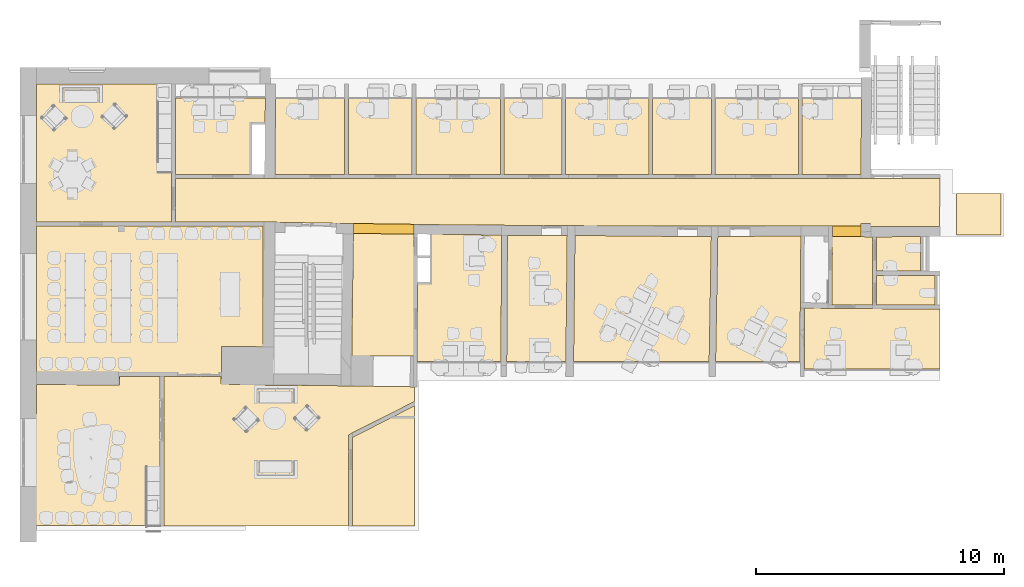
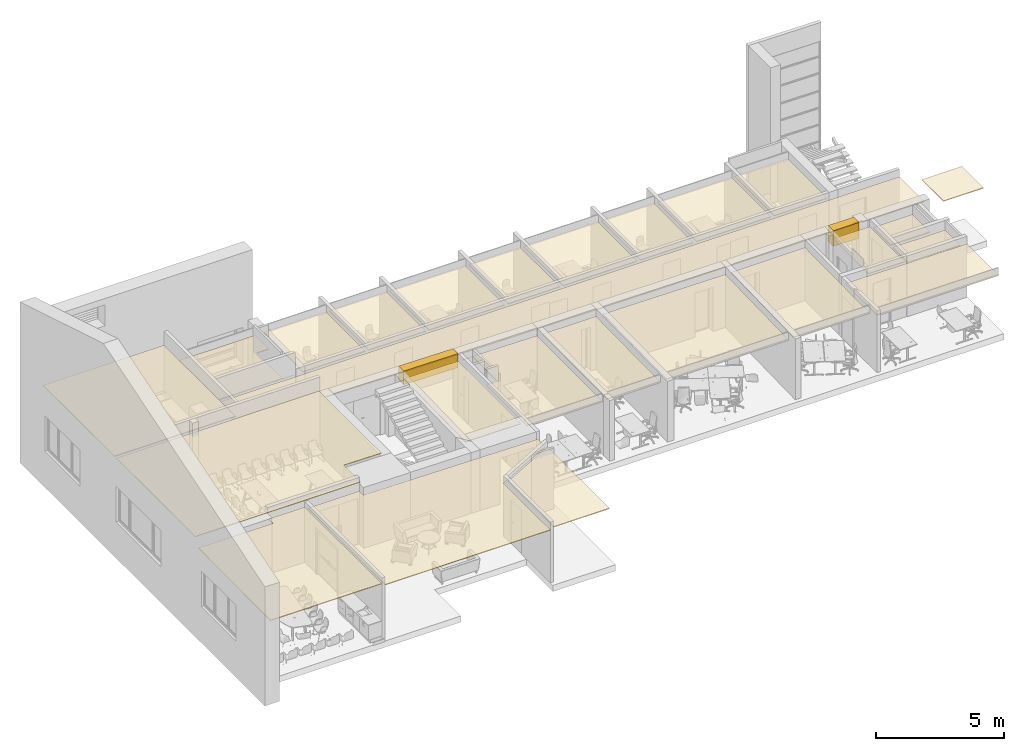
# One storey, part 11 of 19: 27 coverings.
"""IFC2X3 building model written with IfcOpenShell, lengths in millimetres."""

import ifcopenshell
import ifcopenshell.guid

model = None  # the IFC model being written
_history = None  # IfcOwnerHistory: only IFC2X3 demands one
_inside = {}  # id of a spatial element -> (the spatial element, [elements in it])
_under = {}  # id of a project, library or spatial element -> (it, [spatial elements below it])
_declared = {}  # id of a project -> (the project, [libraries it declares])
_typed = {}  # id of a type object -> (the type object, [elements of that type])
_made_of = {}  # id of a material, layer set ... -> (it, [elements and type objects made of it])


def new_model(schema):
    """Start an empty IFC model of exactly this schema.

    Asked for "IFC4X3", IfcOpenShell would pick the latest addendum, in which some entities
    have other attributes; the version numbers below select the first issue.
    IFC2X3 requires an IfcOwnerHistory on every rooted entity: one is made here for all.
    """
    global model, _history
    if schema == "IFC4X3":
        model = ifcopenshell.file(schema_version=(4, 3, 0, 0))
    else:
        model = ifcopenshell.file(schema=schema)
    _inside.clear()
    _under.clear()
    _declared.clear()
    _typed.clear()
    _made_of.clear()
    _history = None
    if model.schema == "IFC2X3":
        org = make("IfcOrganization", Name="unknown")
        user = make(
            "IfcPersonAndOrganization",
            ThePerson=make("IfcPerson", FamilyName="unknown"),
            TheOrganization=org,
        )
        app = make(
            "IfcApplication",
            ApplicationDeveloper=org,
            Version="unknown",
            ApplicationFullName="unknown",
            ApplicationIdentifier="unknown",
        )
        _history = make(
            "IfcOwnerHistory",
            OwningUser=user,
            OwningApplication=app,
            ChangeAction="ADDED",
            CreationDate=0,
        )
    return model


def make(cls, **values):
    """One entity of the class cls with the attributes given. An attribute that is None is left unset."""
    return model.create_entity(
        cls, **{name: value for name, value in values.items() if value is not None}
    )


def entity(cls, *values):
    """Any entity or typed value of the class cls, its attributes in the order of the schema. None: left unset."""
    e = model.create_entity(cls)
    for i, value in enumerate(values):
        if value is not None:
            e[i] = value
    return e


def rooted(cls, **values):
    """An entity with a GlobalId (a new one), such as an element, a storey or a relation."""
    return make(cls, GlobalId=ifcopenshell.guid.new(), OwnerHistory=_history, **values)


def si_unit(unit_type, name, prefix=None):
    """IfcSIUnit, for example si_unit("LENGTHUNIT", "METRE", prefix="MILLI")."""
    return make("IfcSIUnit", UnitType=unit_type, Prefix=prefix, Name=name)


def converted_unit(unit_type, name, factor, base, dimensions=None, offset=None):
    """IfcConversionBasedUnit, such as the inch: factor (a typed value) times the base unit."""
    return make(
        "IfcConversionBasedUnit"
        if offset is None
        else "IfcConversionBasedUnitWithOffset",
        ConversionOffset=offset,
        Dimensions=None
        if dimensions is None
        else entity("IfcDimensionalExponents", *dimensions),
        UnitType=unit_type,
        Name=name,
        ConversionFactor=make(
            "IfcMeasureWithUnit", ValueComponent=factor, UnitComponent=base
        ),
    )


def derived_unit(unit_type, elements):
    """IfcDerivedUnit: a product of units, each with its exponent."""
    return make(
        "IfcDerivedUnit",
        Elements=[
            make("IfcDerivedUnitElement", Unit=unit, Exponent=power)
            for unit, power in elements
        ],
        UnitType=unit_type,
    )


def assignment(units):
    """IfcUnitAssignment: the units of a project."""
    return None if units is None else make("IfcUnitAssignment", Units=units)


def point(xyz):
    """IfcCartesianPoint."""
    return None if xyz is None else make("IfcCartesianPoint", Coordinates=xyz)


def direction(xyz):
    """IfcDirection."""
    return None if xyz is None else make("IfcDirection", DirectionRatios=xyz)


def frame(location, z_axis=None, x_axis=None):
    """IfcAxis2Placement3D, a coordinate frame: its origin and axes. An axis left out is left unset."""
    return make(
        "IfcAxis2Placement3D",
        Location=point(location),
        Axis=direction(z_axis),
        RefDirection=direction(x_axis),
    )


def frame_2d(location, x_axis=None):
    """IfcAxis2Placement2D, a coordinate frame in the plane: its origin and x axis."""
    return make(
        "IfcAxis2Placement2D", Location=point(location), RefDirection=direction(x_axis)
    )


def origin():
    """The frame at (0, 0, 0) with its axes left unset."""
    return frame((0.0, 0.0, 0.0))


def origin_2d_with_axis():
    """The frame at (0, 0) in the plane with the x axis (1, 0) written out."""
    return frame_2d((0.0, 0.0), x_axis=(1.0, 0.0))


def place(relative_to, where):
    """IfcLocalPlacement: puts the frame where relative to a parent placement (None: the world)."""
    return make(
        "IfcLocalPlacement", PlacementRelTo=relative_to, RelativePlacement=where
    )


def context(
    kind, dimensions, precision=None, world=None, true_north=None, identifier=None
):
    """IfcGeometricRepresentationContext, for example the 3D "Model" context."""
    return make(
        "IfcGeometricRepresentationContext",
        ContextIdentifier=identifier,
        ContextType=kind,
        CoordinateSpaceDimension=dimensions,
        Precision=precision,
        WorldCoordinateSystem=world,
        TrueNorth=true_north,
    )


def subcontext(parent, identifier, kind, view, scale=None):
    """IfcGeometricRepresentationSubContext, for example "Body" below "Model"."""
    return make(
        "IfcGeometricRepresentationSubContext",
        ContextIdentifier=identifier,
        ContextType=kind,
        ParentContext=parent,
        TargetScale=scale,
        TargetView=view,
    )


def project(units=None, contexts=None):
    """IfcProject with its units and contexts."""
    return rooted(
        "IfcProject",
        Name="project",
        RepresentationContexts=contexts,
        UnitsInContext=assignment(units),
    )


def spatial(cls, under=None, at=None, **own):
    """A site, building, storey or space (cls), placed at a placement, below another one or the project."""
    s = rooted(cls, ObjectPlacement=at, **own)
    if under is not None:
        _under.setdefault(under.id(), (under, []))[1].append(s)
    return s


def polyline(points):
    """IfcPolyline through the points."""
    return make("IfcPolyline", Points=[point(p) for p in points])


def profile(cls, at=None, kind="AREA", **sizes):
    """A parametric profile (cls). Its sizes go by their IFC names, for example OverallWidth=200.0."""
    return make(cls, ProfileType=kind, Position=at, **sizes)


def rectangle(**sizes):
    """IfcRectangleProfileDef."""
    return profile("IfcRectangleProfileDef", **sizes)


def outline(outer, holes=None, kind="AREA"):
    """IfcArbitraryClosedProfileDef: a profile drawn as a closed curve; with holes, ...WithVoids."""
    if holes is None:
        return make("IfcArbitraryClosedProfileDef", ProfileType=kind, OuterCurve=outer)
    return make(
        "IfcArbitraryProfileDefWithVoids",
        ProfileType=kind,
        OuterCurve=outer,
        InnerCurves=holes,
    )


def extrude(swept, where, along, depth):
    """IfcExtrudedAreaSolid: the profile swept, set in the frame where, extruded along a direction by depth."""
    return make(
        "IfcExtrudedAreaSolid",
        SweptArea=swept,
        Position=where,
        ExtrudedDirection=direction(along),
        Depth=depth,
    )


def shape(context_of_items, identifier, shape_type, items):
    """IfcShapeRepresentation: the items that make up one representation, for example the "Body"."""
    return make(
        "IfcShapeRepresentation",
        ContextOfItems=context_of_items,
        RepresentationIdentifier=identifier,
        RepresentationType=shape_type,
        Items=items,
    )


def material(Name=None, Category=None):
    """IfcMaterial."""
    return make("IfcMaterial", Name=Name, Category=Category)


def layer(
    of_material, thickness, ventilated=None, Name=None, Category=None, Priority=None
):
    """IfcMaterialLayer: one layer of a wall or slab, of a material (None: an air gap)."""
    return make(
        "IfcMaterialLayer",
        Material=of_material,
        LayerThickness=thickness,
        IsVentilated=ventilated,
        Name=Name,
        Category=Category,
        Priority=Priority,
    )


def layer_set(layers, Name=None):
    """IfcMaterialLayerSet."""
    return make("IfcMaterialLayerSet", MaterialLayers=layers, LayerSetName=Name)


def layer_usage(for_layer_set, set_direction, sense, offset, extent=None):
    """IfcMaterialLayerSetUsage: how a layer set lies in its element."""
    return make(
        "IfcMaterialLayerSetUsage",
        ForLayerSet=for_layer_set,
        LayerSetDirection=set_direction,
        DirectionSense=sense,
        OffsetFromReferenceLine=offset,
        ReferenceExtent=extent,
    )


def made_of(thing, what):
    """Note that an element or type object is made of a material, layer set ...; save() writes the relation."""
    if what is not None:
        _made_of.setdefault(what.id(), (what, []))[1].append(thing)
    return thing


def element(
    cls,
    number,
    at=None,
    inside=None,
    cuts=None,
    type_object=None,
    material=None,
    context=None,
    identifier="Body",
    shape_type=None,
    held_by="IfcProductDefinitionShape",
    body=None,
    shapes=None,
    **own,
):
    """One element of the class cls, such as IfcWall. Its Tag is "e" and its number.

    at: its placement. inside: the storey or other place that contains it. cuts: it is an
    opening in that element (IfcRelVoidsElement). A single representation is given by context,
    identifier, shape_type and body (its items); several are given by shapes. held_by: the class
    of the entity that holds the representations. save() writes the other relations.
    """
    e = rooted(cls, Tag="e%d" % number, ObjectPlacement=at, **own)
    if body is not None:
        shapes = [shape(context, identifier, shape_type, body)]
    if shapes is not None:
        e.Representation = make(held_by, Representations=shapes)
    if inside is not None:
        _inside.setdefault(inside.id(), (inside, []))[1].append(e)
    if cuts is not None:
        rooted(
            "IfcRelVoidsElement", RelatingBuildingElement=cuts, RelatedOpeningElement=e
        )
    if type_object is not None:
        _typed.setdefault(type_object.id(), (type_object, []))[1].append(e)
    return made_of(e, material)


def aggregate(whole, parts):
    """IfcRelAggregates: a whole, such as a stair, and the parts it consists of."""
    return rooted("IfcRelAggregates", RelatingObject=whole, RelatedObjects=parts)


def save(model, path):
    """Write the relations noted so far, then the file.

    IfcRelAggregates (storeys below a building ...), IfcRelContainedInSpatialStructure (elements
    in a storey), IfcRelDefinesByType, IfcRelAssociatesMaterial and IfcRelDeclares: one each for
    every whole, place, type object, material and project.
    """
    for whole, parts in _under.values():
        aggregate(whole, parts)
    for where, things in _inside.values():
        rooted(
            "IfcRelContainedInSpatialStructure",
            RelatedElements=things,
            RelatingStructure=where,
        )
    for kind, things in _typed.values():
        rooted("IfcRelDefinesByType", RelatedObjects=things, RelatingType=kind)
    for what, things in _made_of.values():
        rooted("IfcRelAssociatesMaterial", RelatedObjects=things, RelatingMaterial=what)
    for by, libraries in _declared.values():
        rooted("IfcRelDeclares", RelatingContext=by, RelatedDefinitions=libraries)
    model.write(path)


model = new_model("IFC2X3")

# Units and contexts
model_context = context("Model", 3, precision=0.01, world=origin(), true_north=direction((6.12303176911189e-17, 1.0)))
context_of_model = context(None, 3, precision=0.01, world=origin(), true_north=direction((6.12303176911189e-17, 1.0)))
body_context = subcontext(model_context, "Body", "Model", "MODEL_VIEW")
ifc_project = project(units=[si_unit("LENGTHUNIT", "METRE", prefix="MILLI"), si_unit("AREAUNIT", "SQUARE_METRE"), si_unit("VOLUMEUNIT", "CUBIC_METRE"), converted_unit("PLANEANGLEUNIT", "DEGREE", entity("IfcRatioMeasure", 0.0174532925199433), si_unit("PLANEANGLEUNIT", "RADIAN"), dimensions=[0, 0, 0, 0, 0, 0, 0]), si_unit("MASSUNIT", "GRAM", prefix="KILO"), derived_unit("MASSDENSITYUNIT", [(si_unit("MASSUNIT", "GRAM", prefix="KILO"), 1), (si_unit("LENGTHUNIT", "METRE"), -3)]), si_unit("TIMEUNIT", "SECOND"), si_unit("FREQUENCYUNIT", "HERTZ"), si_unit("THERMODYNAMICTEMPERATUREUNIT", "DEGREE_CELSIUS"), derived_unit("THERMALTRANSMITTANCEUNIT", [(si_unit("MASSUNIT", "GRAM", prefix="KILO"), 1), (si_unit("THERMODYNAMICTEMPERATUREUNIT", "KELVIN"), -1), (si_unit("TIMEUNIT", "SECOND"), -3)]), derived_unit("VOLUMETRICFLOWRATEUNIT", [(si_unit("LENGTHUNIT", "METRE"), 3), (si_unit("TIMEUNIT", "SECOND"), -1)]), si_unit("ELECTRICCURRENTUNIT", "AMPERE"), si_unit("ELECTRICVOLTAGEUNIT", "VOLT"), si_unit("POWERUNIT", "WATT"), si_unit("FORCEUNIT", "NEWTON", prefix="KILO"), si_unit("ILLUMINANCEUNIT", "LUX"), si_unit("LUMINOUSFLUXUNIT", "LUMEN"), si_unit("LUMINOUSINTENSITYUNIT", "CANDELA"), derived_unit("USERDEFINED", [(si_unit("MASSUNIT", "GRAM", prefix="KILO"), -1), (si_unit("LENGTHUNIT", "METRE"), -2), (si_unit("TIMEUNIT", "SECOND"), 3), (si_unit("LUMINOUSFLUXUNIT", "LUMEN"), 1)]), derived_unit("LINEARVELOCITYUNIT", [(si_unit("LENGTHUNIT", "METRE"), 1), (si_unit("TIMEUNIT", "SECOND"), -1)]), si_unit("PRESSUREUNIT", "PASCAL"), derived_unit("USERDEFINED", [(si_unit("LENGTHUNIT", "METRE"), -2), (si_unit("MASSUNIT", "GRAM", prefix="KILO"), 1), (si_unit("TIMEUNIT", "SECOND"), -2)])], contexts=[model_context, context_of_model])

# Site, building, storey
site_placement = place(None, frame((121442.264707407, 135347.995453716, -1800.0)))
site = spatial("IfcSite", under=ifc_project, at=site_placement, Name="Surface", CompositionType="ELEMENT")
building_placement = place(site_placement, origin())
building = spatial("IfcBuilding", under=site, at=building_placement, CompositionType="ELEMENT")
storey_placement = place(building_placement, frame((0.0, 0.0, 5125.0)))
storey = spatial("IfcBuildingStorey", under=building, at=storey_placement, Name="2 korrus", CompositionType="ELEMENT", Elevation=5125.00000000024)

# Coverings
covering_1_placement = place(storey_placement, origin())
element("IfcCovering", 1, at=covering_1_placement, inside=storey, Name="Ceilings 9:Ceilings 9", ObjectType="Ceilings 9:Ceilings 9", PredefinedType="CEILING", context=body_context, shape_type="SweptSolid", body=[
    extrude(outline(polyline([(-1213.11327095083, -199.440649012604), (1214.25687641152, -199.440649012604), (1216.01877030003, 199.440649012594), (-1217.16237576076, 199.440649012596), (-1213.11327095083, -199.440649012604)])), frame((-104942.365321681, -121186.850855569, 2234.04979010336), z_axis=(0.0, 0.0, 1.0), x_axis=(-0.999907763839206, 0.0135817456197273, 0.0)), (0.0, 0.0, 1.0), 655.950209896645),
])
covering_2_placement = place(storey_placement, origin())
element("IfcCovering", 2, at=covering_2_placement, inside=storey, Name="Ceilings 12:Ceilings 12", ObjectType="Ceilings 12:Ceilings 12", PredefinedType="CEILING", context=body_context, shape_type="SweptSolid", body=[
    extrude(outline(polyline([(-206.002464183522, -575.724124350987), (206.723622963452, -575.724124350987), (211.33496473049, 577.560674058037), (-212.056123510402, 573.887574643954), (-206.002464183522, -575.724124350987)])), frame((-86287.5145248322, -121287.389470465, 2148.84904384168), z_axis=(0.0, 0.0, 1.0), x_axis=(-0.0052657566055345, -0.999986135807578, 0.0)), (0.0, 0.0, 1.0), 748.097392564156),
])
ifc_material_1 = material(Name="EST. Ripplagi. Moodullagi. 600 x 600 mm")
ifc_layer_1 = layer(ifc_material_1, 35.0)
ifc_layer_set_1 = layer_set([ifc_layer_1], Name="Compound Ceiling:600x600 Focus")
ifc_layer_usage_1 = layer_usage(ifc_layer_set_1, "AXIS3", "POSITIVE", 0.0)
covering_3_placement = place(storey_placement, origin())
element("IfcCovering", 3, at=covering_3_placement, inside=storey, material=ifc_layer_usage_1, Name="Compound Ceiling:600x600 Focus", ObjectType="Compound Ceiling:600x600 Focus", PredefinedType="CEILING", context=body_context, shape_type="SweptSolid", body=[
    extrude(outline(polyline([(-1414.52183146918, -1545.94238178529), (1399.17587086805, -1545.94238178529), (1399.17587086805, 1545.94238178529), (-1383.82991026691, 1545.94238178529), (-1414.52183146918, -1545.94238178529)])), frame((-107914.712601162, -117453.394814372, 2500.0)), (0.0, 0.0, 1.0), 34.9999999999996),
])
ifc_layer_usage_2 = layer_usage(ifc_layer_set_1, "AXIS3", "POSITIVE", 0.0)
covering_4_placement = place(storey_placement, origin())
element("IfcCovering", 4, at=covering_4_placement, inside=storey, material=ifc_layer_usage_2, Name="Compound Ceiling:600x600 Focus", ObjectType="Compound Ceiling:600x600 Focus", PredefinedType="CEILING", context=body_context, shape_type="SweptSolid", body=[
    extrude(rectangle(XDim=3091.88476357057, YDim=2570.00000000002, at=frame_2d((8.64019966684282e-12, -8.64019966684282e-12), x_axis=(1.0, 0.0))), frame((-105080.536730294, -117453.394814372, 2500.0), z_axis=(0.0, 0.0, 1.0), x_axis=(0.0, -1.0, 0.0)), (0.0, 0.0, 1.0), 34.9999999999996),
])
ifc_layer_usage_3 = layer_usage(ifc_layer_set_1, "AXIS3", "POSITIVE", 0.0)
covering_5_placement = place(storey_placement, origin())
element("IfcCovering", 5, at=covering_5_placement, inside=storey, material=ifc_layer_usage_3, Name="Compound Ceiling:600x600 Focus", ObjectType="Compound Ceiling:600x600 Focus", PredefinedType="CEILING", context=body_context, shape_type="SweptSolid", body=[
    extrude(rectangle(XDim=3091.88476357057, YDim=3411.19525100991, at=frame_2d((0.0, 8.64019966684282e-12), x_axis=(1.0, 0.0))), frame((-101939.939104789, -117453.394814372, 2500.0), z_axis=(0.0, 0.0, 1.0), x_axis=(0.0, -1.0, 0.0)), (0.0, 0.0, 1.0), 34.9999999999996),
])
ifc_layer_usage_4 = layer_usage(ifc_layer_set_1, "AXIS3", "POSITIVE", 0.0)
covering_6_placement = place(storey_placement, origin())
element("IfcCovering", 6, at=covering_6_placement, inside=storey, material=ifc_layer_usage_4, Name="Compound Ceiling:600x600 Focus", ObjectType="Compound Ceiling:600x600 Focus", PredefinedType="CEILING", context=body_context, shape_type="SweptSolid", body=[
    extrude(rectangle(XDim=3091.88476357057, YDim=2328.80474899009, at=frame_2d((-8.64019966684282e-12, 0.0), x_axis=(1.0, 0.0))), frame((-98919.9391047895, -117453.394814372, 2500.0), z_axis=(0.0, 0.0, 1.0), x_axis=(0.0, -1.0, 0.0)), (0.0, 0.0, 1.0), 34.9999999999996),
])
ifc_layer_usage_5 = layer_usage(ifc_layer_set_1, "AXIS3", "POSITIVE", 0.0)
covering_7_placement = place(storey_placement, origin())
element("IfcCovering", 7, at=covering_7_placement, inside=storey, material=ifc_layer_usage_5, Name="Compound Ceiling:600x600 Focus", ObjectType="Compound Ceiling:600x600 Focus", PredefinedType="CEILING", context=body_context, shape_type="SweptSolid", body=[
    extrude(rectangle(XDim=3091.88476357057, YDim=3350.03222168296, at=origin_2d_with_axis()), frame((-95930.5206194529, -117453.394814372, 2500.0), z_axis=(0.0, 0.0, 1.0), x_axis=(0.0, -1.0, 0.0)), (0.0, 0.0, 1.0), 34.9999999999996),
])
ifc_layer_usage_6 = layer_usage(ifc_layer_set_1, "AXIS3", "POSITIVE", 0.0)
covering_8_placement = place(storey_placement, origin())
element("IfcCovering", 8, at=covering_8_placement, inside=storey, material=ifc_layer_usage_6, Name="Compound Ceiling:600x600 Focus", ObjectType="Compound Ceiling:600x600 Focus", PredefinedType="CEILING", context=body_context, shape_type="SweptSolid", body=[
    extrude(rectangle(XDim=3091.88476357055, YDim=2371.16302932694, at=frame_2d((1.72803993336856e-11, 8.64019966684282e-12), x_axis=(1.0, 0.0))), frame((-92919.922993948, -117453.394814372, 2500.0), z_axis=(0.0, 0.0, 1.0), x_axis=(0.0, -1.0, 0.0)), (0.0, 0.0, 1.0), 34.9999999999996),
])
ifc_layer_usage_7 = layer_usage(ifc_layer_set_1, "AXIS3", "POSITIVE", 0.0)
covering_9_placement = place(storey_placement, origin())
element("IfcCovering", 9, at=covering_9_placement, inside=storey, material=ifc_layer_usage_7, Name="Compound Ceiling:600x600 Focus", ObjectType="Compound Ceiling:600x600 Focus", PredefinedType="CEILING", context=body_context, shape_type="SweptSolid", body=[
    extrude(rectangle(XDim=3091.88476357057, YDim=3348.58493529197, at=frame_2d((8.64019966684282e-12, 8.75388650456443e-12), x_axis=(1.0, 0.0))), frame((-89910.0490116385, -117453.394814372, 2500.0), z_axis=(0.0, 0.0, 1.0), x_axis=(0.0, -1.0, 0.0)), (0.0, 0.0, 1.0), 34.9999999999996),
])
ifc_layer_usage_8 = layer_usage(ifc_layer_set_1, "AXIS3", "POSITIVE", 0.0)
covering_10_placement = place(storey_placement, origin())
element("IfcCovering", 10, at=covering_10_placement, inside=storey, material=ifc_layer_usage_8, Name="Compound Ceiling:600x600 Focus", ObjectType="Compound Ceiling:600x600 Focus", PredefinedType="CEILING", context=body_context, shape_type="SweptSolid", body=[
    extrude(outline(polyline([(-1201.97683756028, -1545.94238178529), (1194.03765202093, -1545.94238178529), (1194.03765202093, 1545.94238178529), (-1186.09846648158, 1545.94238178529), (-1201.97683756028, -1545.94238178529)])), frame((-86891.7188919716, -117453.394814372, 2500.0), z_axis=(0.0, 0.0, 1.0), x_axis=(-1.0, 0.0, 0.0)), (0.0, 0.0, 1.0), 34.9999999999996),
])
ifc_layer_usage_9 = layer_usage(ifc_layer_set_1, "AXIS3", "POSITIVE", 0.0)
covering_11_placement = place(storey_placement, origin())
element("IfcCovering", 11, at=covering_11_placement, inside=storey, material=ifc_layer_usage_9, Name="Compound Ceiling:600x600 Focus", ObjectType="Compound Ceiling:600x600 Focus", PredefinedType="CEILING", context=body_context, shape_type="SweptSolid", body=[
    extrude(outline(polyline([(-2522.82707750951, -2739.31495053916), (2558.93472956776, -2739.31495053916), (2498.51336037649, 2723.22705116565), (-2534.62101243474, 2755.40284991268), (-2522.82707750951, -2739.31495053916)])), frame((-94522.8367520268, -124007.500615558, 2500.0), z_axis=(0.0, 0.0, 1.0), x_axis=(-0.0110603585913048, -0.999938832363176, 0.0)), (0.0, 0.0, 1.0), 34.9999999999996),
])
ifc_layer_usage_10 = layer_usage(ifc_layer_set_1, "AXIS3", "POSITIVE", 0.0)
covering_12_placement = place(storey_placement, origin())
element("IfcCovering", 12, at=covering_12_placement, inside=storey, material=ifc_layer_usage_10, Name="Compound Ceiling:600x600 Focus", ObjectType="Compound Ceiling:600x600 Focus", PredefinedType="CEILING", context=body_context, shape_type="SweptSolid", body=[
    extrude(outline(polyline([(-2536.2582837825, -1199.05554731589), (2548.41113475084, -1199.05554731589), (2535.77422525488, 1184.4175161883), (-2547.92707622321, 1213.6935784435), (-2536.2582837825, -1199.05554731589)])), frame((-98771.2625091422, -123993.96286794, 2500.0), z_axis=(0.0, 0.0, 1.0), x_axis=(-0.00530181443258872, -0.999985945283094, 0.0)), (0.0, 0.0, 1.0), 34.9999999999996),
])
ifc_layer_usage_11 = layer_usage(ifc_layer_set_1, "AXIS3", "POSITIVE", 0.0)
covering_13_placement = place(storey_placement, origin())
element("IfcCovering", 13, at=covering_13_placement, inside=storey, material=ifc_layer_usage_11, Name="Compound Ceiling:600x600 Focus", ObjectType="Compound Ceiling:600x600 Focus", PredefinedType="CEILING", context=body_context, shape_type="SweptSolid", body=[
    extrude(outline(polyline([(-2291.10440204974, -2276.27438132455), (1120.17837583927, -2276.27438132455), (1102.57409887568, -1098.51992312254), (1127.99922536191, 100.302290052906), (1143.46432092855, 2785.93760980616), (-2203.11161895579, 2764.82878591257), (-2291.10440204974, -2276.27438132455)])), frame((-89276.2667205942, -124259.706634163, 2500.0)), (0.0, 0.0, 1.0), 34.9999999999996),
])
ifc_layer_usage_12 = layer_usage(ifc_layer_set_1, "AXIS3", "POSITIVE", 0.0)
covering_14_placement = place(storey_placement, origin())
element("IfcCovering", 14, at=covering_14_placement, inside=storey, material=ifc_layer_usage_12, Name="Compound Ceiling:600x600 Focus", ObjectType="Compound Ceiling:600x600 Focus", PredefinedType="CEILING", context=body_context, shape_type="SweptSolid", body=[
    extrude(outline(polyline([(-2362.00161148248, -1871.56221014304), (454.784458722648, -1871.56221014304), (2071.72142166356, 1301.85526006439), (-164.50426890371, 2441.26916022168), (-2362.00161148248, -1871.56221014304)])), frame((-104945.357267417, -131050.423792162, 2600.0), z_axis=(0.0, 0.0, 1.0), x_axis=(-0.891006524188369, -0.453990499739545, 0.0)), (0.0, 0.0, 1.0), 34.9999999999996),
])
ifc_layer_usage_13 = layer_usage(ifc_layer_set_1, "AXIS3", "POSITIVE", 0.0)
covering_15_placement = place(storey_placement, origin())
element("IfcCovering", 15, at=covering_15_placement, inside=storey, material=ifc_layer_usage_13, Name="Compound Ceiling:600x600 Focus", ObjectType="Compound Ceiling:600x600 Focus", PredefinedType="CEILING", context=body_context, shape_type="SweptSolid", body=[
    extrude(outline(polyline([(-2533.48456360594, -1441.59172131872), (855.782500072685, -1441.59172131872), (855.685835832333, -1431.50689241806), (362.394192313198, -1437.92802816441), (355.72819047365, -1438.01479894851), (344.534591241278, -578.08764893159), (351.200593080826, -578.000878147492), (337.301314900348, 489.784954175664), (837.207660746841, 496.292192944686), (806.47755202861, 3702.31633797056), (-2572.82786708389, 3658.32820415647), (-2533.48456360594, -1441.59172131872)])), frame((-102741.039032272, -122844.475259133, 2500.0), z_axis=(0.0, 0.0, 1.0), x_axis=(-0.999915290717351, 0.0130158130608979, 0.0)), (0.0, 0.0, 1.0), 34.9999999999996),
])
ifc_layer_usage_14 = layer_usage(ifc_layer_set_1, "AXIS3", "POSITIVE", 0.0)
covering_16_placement = place(storey_placement, origin())
element("IfcCovering", 16, at=covering_16_placement, inside=storey, material=ifc_layer_usage_14, Name="Compound Ceiling:600x600 Focus", ObjectType="Compound Ceiling:600x600 Focus", PredefinedType="CEILING", context=body_context, shape_type="SweptSolid", body=[
    extrude(outline(polyline([(-1216.15156976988, -2733.9308559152), (1193.95225345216, -2733.9308559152), (1238.35088608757, 2733.9308559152), (-1216.15156976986, 2733.9308559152), (-1216.15156976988, -2733.9308559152)])), frame((-85259.9112359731, -125619.829445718, 2500.0), z_axis=(0.0, 0.0, 1.0), x_axis=(0.0, 1.0, 0.0)), (0.0, 0.0, 1.0), 34.9999999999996),
])

# Space
space_1_placement = place(storey_placement, origin())
space_1 = spatial("IfcSpace", under=storey, at=space_1_placement, Name="203", CompositionType="ELEMENT", InteriorOrExteriorSpace="INTERNAL")

# Covering
ifc_material_2 = material(Name="Default")
ifc_layer_2 = layer(ifc_material_2, 36.0)
ifc_material_3 = material(Name="Ceiling Tile 600 x 600")
ifc_layer_3 = layer(ifc_material_3, 8.0)
ifc_layer_set_2 = layer_set([ifc_layer_2, ifc_layer_3], Name="Compound Ceiling:600 x 600mm Vinyyl")
ifc_layer_usage_15 = layer_usage(ifc_layer_set_2, "AXIS3", "POSITIVE", 0.0)
covering_17_placement = place(space_1_placement, origin())
element("IfcCovering", 17, at=covering_17_placement, inside=space_1, material=ifc_layer_usage_15, Name="Compound Ceiling:600 x 600mm Vinyyl", ObjectType="Compound Ceiling:600 x 600mm Vinyyl", PredefinedType="CEILING", context=body_context, shape_type="SweptSolid", body=[
    extrude(rectangle(XDim=2352.05635023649, YDim=1192.51012435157, at=frame_2d((-8.64019966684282e-12, -8.64019966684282e-12), x_axis=(1.0, 0.0))), frame((-83909.5085551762, -123658.62213009, 2400.0)), (0.0, 0.0, 1.0), 43.9999999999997),
])

# Space
space_2_placement = place(storey_placement, origin())
space_2 = spatial("IfcSpace", under=storey, at=space_2_placement, Name="204", CompositionType="ELEMENT", InteriorOrExteriorSpace="INTERNAL")

# Coverings
ifc_layer_usage_16 = layer_usage(ifc_layer_set_2, "AXIS3", "POSITIVE", 0.0)
covering_18_placement = place(space_2_placement, origin())
element("IfcCovering", 18, at=covering_18_placement, inside=space_2, material=ifc_layer_usage_16, Name="Compound Ceiling:600 x 600mm Vinyyl", ObjectType="Compound Ceiling:600 x 600mm Vinyyl", PredefinedType="CEILING", context=body_context, shape_type="SweptSolid", body=[
    extrude(outline(polyline([(-891.028175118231, -688.749491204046), (891.028175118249, -688.749491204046), (891.028175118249, 691.787401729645), (-891.028175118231, 685.711580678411), (-891.028175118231, -688.749491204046)])), frame((-84194.5085551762, -122193.61757671, 2400.0)), (0.0, 0.0, 1.0), 43.9999999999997),
])
ifc_layer_usage_17 = layer_usage(ifc_layer_set_1, "AXIS3", "POSITIVE", 0.0)
covering_19_placement = place(storey_placement, origin())
element("IfcCovering", 19, at=covering_19_placement, inside=storey, material=ifc_layer_usage_17, Name="Compound Ceiling:600x600 Focus", ObjectType="Compound Ceiling:600x600 Focus", PredefinedType="CEILING", context=body_context, shape_type="SweptSolid", body=[
    extrude(outline(polyline([(-1376.43393905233, -817.875125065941), (1370.02584060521, -817.875125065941), (1382.84203749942, 817.875125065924), (-1376.43393905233, 817.875125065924), (-1376.43393905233, -817.875125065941)])), frame((-86053.4118553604, -122878.443253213, 2500.0), z_axis=(0.0, 0.0, 1.0), x_axis=(0.0, 1.0, 0.0)), (0.0, 0.0, 1.0), 34.9999999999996),
])
ifc_layer_usage_18 = layer_usage(ifc_layer_set_1, "AXIS3", "POSITIVE", 0.0)
covering_20_placement = place(storey_placement, origin())
element("IfcCovering", 20, at=covering_20_placement, inside=storey, material=ifc_layer_usage_18, Name="Compound Ceiling:600x600 Focus", ObjectType="Compound Ceiling:600x600 Focus", PredefinedType="CEILING", context=body_context, shape_type="SweptSolid", body=[
    extrude(rectangle(XDim=1800.00000000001, YDim=1680.0, at=origin_2d_with_axis()), frame((-80965.9803800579, -120594.923567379, 2500.0), z_axis=(0.0, 0.0, 1.0), x_axis=(-1.0, 0.0, 0.0)), (0.0, 0.0, 1.0), 34.9999999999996),
])
ifc_layer_usage_19 = layer_usage(ifc_layer_set_1, "AXIS3", "POSITIVE", 0.0)
covering_21_placement = place(storey_placement, origin())
element("IfcCovering", 21, at=covering_21_placement, inside=storey, material=ifc_layer_usage_19, Name="Compound Ceiling:600x600 Focus", ObjectType="Compound Ceiling:600x600 Focus", PredefinedType="CEILING", context=body_context, shape_type="SweptSolid", body=[
    extrude(outline(polyline([(-1201.69539811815, -2457.98607690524), (1233.82679651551, -2457.98607690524), (1233.82679651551, 2474.37964751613), (-1265.95819491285, 2441.59250629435), (-1201.69539811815, -2457.98607690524)])), frame((-104961.848248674, -123843.682744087, 2500.0), z_axis=(0.0, 0.0, 1.0), x_axis=(-0.999913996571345, 0.0131148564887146, 0.0)), (0.0, 0.0, 1.0), 34.9999999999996),
])

# Space
space_3_placement = place(storey_placement, origin())
space_3 = spatial("IfcSpace", under=storey, at=space_3_placement, Name="224", CompositionType="ELEMENT", InteriorOrExteriorSpace="INTERNAL")

# Coverings
ifc_layer_usage_20 = layer_usage(ifc_layer_set_1, "AXIS3", "POSITIVE", 0.0)
covering_22_placement = place(space_3_placement, origin())
element("IfcCovering", 22, at=covering_22_placement, inside=space_3, material=ifc_layer_usage_20, Name="Compound Ceiling:600x600 Focus", ObjectType="Compound Ceiling:600x600 Focus", PredefinedType="CEILING", context=body_context, shape_type="SweptSolid", body=[
    extrude(outline(polyline([(-3321.44346117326, -1895.83683776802), (2669.55653882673, -1895.83683776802), (2669.55653882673, -262.907905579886), (2329.07311902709, -262.907905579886), (2336.14418683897, 3089.16316223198), (-3341.44346117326, 3124.16316223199), (-3341.44346117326, -1895.83683776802), (-3321.44346117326, -1895.83683776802)])), frame((-115844.547405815, -129802.055636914, 2600.0), z_axis=(0.0, 0.0, 1.0), x_axis=(0.0, 1.0, 0.0)), (0.0, 0.0, 1.0), 34.9999999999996),
])
ifc_layer_usage_21 = layer_usage(ifc_layer_set_1, "AXIS3", "POSITIVE", 0.0)
covering_23_placement = place(storey_placement, origin())
element("IfcCovering", 23, at=covering_23_placement, inside=storey, material=ifc_layer_usage_21, Name="Compound Ceiling:600x600 Focus", ObjectType="Compound Ceiling:600x600 Focus", PredefinedType="CEILING", context=body_context, shape_type="SweptSolid", body=[
    extrude(outline(polyline([(-4966.63646460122, -4001.98141103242), (2481.82945313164, -4001.98141103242), (2481.82945313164, -336.195587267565), (5141.60421892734, 1006.77133006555), (5141.60421892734, 1596.4508401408), (-2656.79720745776, 1704.04292542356), (-2656.79720745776, 2016.44665685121), (-4966.63646460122, 2016.44665685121), (-4966.63646460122, -4001.98141103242)])), frame((-108832.074103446, -129148.945754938, 2500.0)), (0.0, 0.0, 1.0), 34.9999999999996),
])
ifc_layer_usage_22 = layer_usage(ifc_layer_set_1, "AXIS3", "POSITIVE", 0.0)
covering_24_placement = place(storey_placement, origin())
element("IfcCovering", 24, at=covering_24_placement, inside=storey, material=ifc_layer_usage_22, Name="Compound Ceiling:600x600 Focus", ObjectType="Compound Ceiling:600x600 Focus", PredefinedType="CEILING", context=body_context, shape_type="SweptSolid", body=[
    extrude(outline(polyline([(-14535.4913377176, -1590.72206340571), (16274.0763484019, -1590.72206340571), (16274.0763484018, 171.579307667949), (12721.4660266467, 171.579307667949), (11864.3986545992, 187.00752032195), (9104.84572390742, 236.682692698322), (6645.05729234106, 268.945239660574), (5090.37400615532, 289.336441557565), (-2728.95344703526, 338.298979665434), (-11348.5811995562, 338.298979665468), (-11348.5811995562, 235.436838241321), (-11746.0979394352, 235.436838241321), (-11746.0979394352, 359.72429157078), (-14520.4913377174, 349.117689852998), (-14535.4913377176, -1590.72206340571)])), frame((-97061.4717177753, -120740.059259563, 2500.0), z_axis=(0.0, 0.0, 1.0), x_axis=(-1.0, 0.0, 0.0)), (0.0, 0.0, 1.0), 34.9999999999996),
])
ifc_layer_usage_23 = layer_usage(ifc_layer_set_1, "AXIS3", "POSITIVE", 0.0)
covering_25_placement = place(storey_placement, origin())
element("IfcCovering", 25, at=covering_25_placement, inside=storey, material=ifc_layer_usage_23, Name="Compound Ceiling:600x600 Focus", ObjectType="Compound Ceiling:600x600 Focus", PredefinedType="CEILING", context=body_context, shape_type="SweptSolid", body=[
    extrude(outline(polyline([(-1814.95199013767, -2574.79704908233), (1276.93277343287, -2574.79704908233), (1276.93277343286, 1021.49638477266), (1271.50960835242, 1021.55021839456), (1271.50960835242, 506.453063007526), (-733.490391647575, 506.453063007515), (-733.490391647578, 1041.4530630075), (-1814.95199013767, 1052.18830597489), (-1814.95199013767, -2574.79704908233)])), frame((-110760.751017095, -117722.404422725, 2500.0), z_axis=(0.0, 0.0, 1.0), x_axis=(0.0, -1.0, 0.0)), (0.0, 0.0, 1.0), 34.9999999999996),
])

# Space
space_4_placement = place(storey_placement, origin())
space_4 = spatial("IfcSpace", under=storey, at=space_4_placement, Name="225", CompositionType="ELEMENT", InteriorOrExteriorSpace="INTERNAL")

# Covering
ifc_layer_usage_24 = layer_usage(ifc_layer_set_1, "AXIS3", "POSITIVE", 0.0)
covering_26_placement = place(space_4_placement, origin())
element("IfcCovering", 26, at=covering_26_placement, inside=space_4, material=ifc_layer_usage_24, Name="Compound Ceiling:600x600 Focus", ObjectType="Compound Ceiling:600x600 Focus", PredefinedType="CEILING", context=body_context, shape_type="SweptSolid", body=[
    extrude(rectangle(XDim=5450.22854433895, YDim=5574.54545809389, at=frame_2d((-8.64019966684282e-12, -8.64019966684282e-12), x_axis=(1.0, 0.0))), frame((-116210.662338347, -118129.191841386, 3000.0)), (0.0, 0.0, 1.0), 34.9999999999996),
])

# Space
space_5_placement = place(storey_placement, origin())
space_5 = spatial("IfcSpace", under=storey, at=space_5_placement, Name="221", CompositionType="ELEMENT", InteriorOrExteriorSpace="INTERNAL")

# Covering
ifc_layer_usage_25 = layer_usage(ifc_layer_set_1, "AXIS3", "POSITIVE", 0.0)
covering_27_placement = place(space_5_placement, origin())
element("IfcCovering", 27, at=covering_27_placement, inside=space_5, material=ifc_layer_usage_25, Name="Compound Ceiling:600x600 Focus", ObjectType="Compound Ceiling:600x600 Focus", PredefinedType="CEILING", context=body_context, shape_type="SweptSolid", body=[
    extrude(outline(polyline([(-3605.68235510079, -3675.72328856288), (5529.69059685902, -3675.72328856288), (5529.69059685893, 2487.37816463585), (-1924.00824175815, 2487.37816463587), (-1924.00824175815, 1176.74436021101), (-3605.68235510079, 1199.9458876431), (-3605.68235510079, -3675.72328856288)])), frame((-113406.086013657, -124742.187858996, 3000.0), z_axis=(0.0, 0.0, 1.0), x_axis=(-1.0, 0.0, 0.0)), (0.0, 0.0, 1.0), 34.9999999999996),
])

save(model, "model.ifc")
